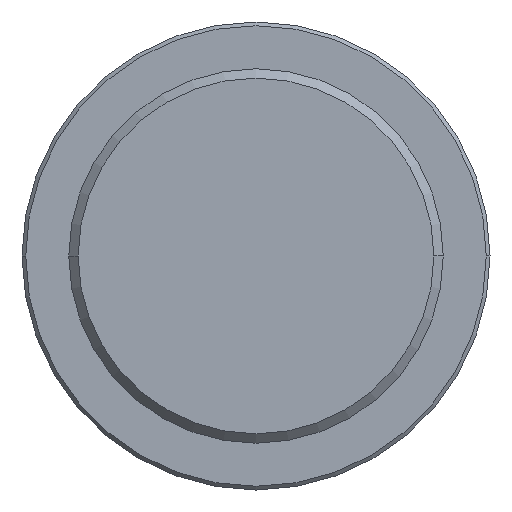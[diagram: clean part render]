
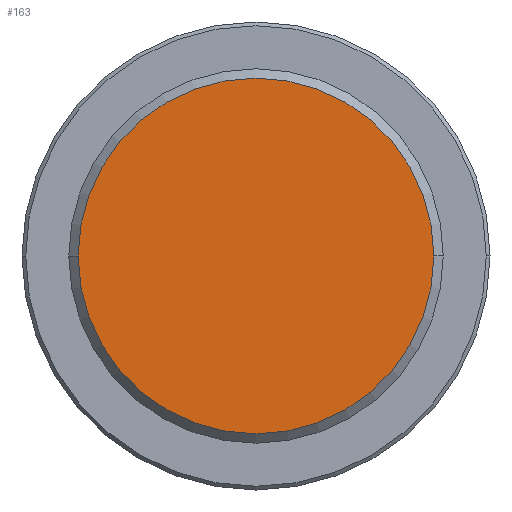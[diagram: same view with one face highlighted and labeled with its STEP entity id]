
A CAD part, left-side view. The second image highlights one B-rep face of the part: STEP entity #163.
In plain terms, the highlighted planar face has unit normal (-1, 0, 0).
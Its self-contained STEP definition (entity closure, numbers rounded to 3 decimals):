
#66 = EDGE_CURVE ( 'NONE', #68, #69, #609, .T. ) ;
#68 = VERTEX_POINT ( 'NONE', #604 ) ;
#69 = VERTEX_POINT ( 'NONE', #603 ) ;
#147 = ORIENTED_EDGE ( 'NONE', *, *, #66, .T. ) ;
#158 = ORIENTED_EDGE ( 'NONE', *, *, #159, .T. ) ;
#159 = EDGE_CURVE ( 'NONE', #69, #68, #725, .T. ) ;
#160 = EDGE_LOOP ( 'NONE', ( #158, #147 ) ) ;
#163 = ADVANCED_FACE ( 'NONE', ( #715 ), #1881, .T. ) ;
#603 = CARTESIAN_POINT ( 'NONE',  ( -45., 9.5, 0. ) ) ;
#604 = CARTESIAN_POINT ( 'NONE',  ( -45., -9.5, 0. ) ) ;
#605 = DIRECTION ( 'NONE',  ( 0., -1., 0. ) ) ;
#606 = DIRECTION ( 'NONE',  ( -1., 0., 0. ) ) ;
#607 = CARTESIAN_POINT ( 'NONE',  ( -45., 0., 0. ) ) ;
#608 = AXIS2_PLACEMENT_3D ( 'NONE', #607, #606, #605 ) ;
#609 = CIRCLE ( 'NONE', #608, 9.5 ) ;
#715 = FACE_OUTER_BOUND ( 'NONE', #160, .T. ) ;
#716 = DIRECTION ( 'NONE',  ( 0., -1., 0. ) ) ;
#717 = DIRECTION ( 'NONE',  ( -1., 0., 0. ) ) ;
#718 = CARTESIAN_POINT ( 'NONE',  ( -45., 0., 0. ) ) ;
#719 = AXIS2_PLACEMENT_3D ( 'NONE', #718, #717, #716 ) ;
#725 = CIRCLE ( 'NONE', #719, 9.5 ) ;
#1881 = PLANE ( 'NONE',  #1883 ) ;
#1882 = DIRECTION ( 'NONE',  ( 0., -1., 0. ) ) ;
#1883 = AXIS2_PLACEMENT_3D ( 'NONE', #1885, #1884, #1882 ) ;
#1884 = DIRECTION ( 'NONE',  ( -1., 0., 0. ) ) ;
#1885 = CARTESIAN_POINT ( 'NONE',  ( -45., 10., 0. ) ) ;
